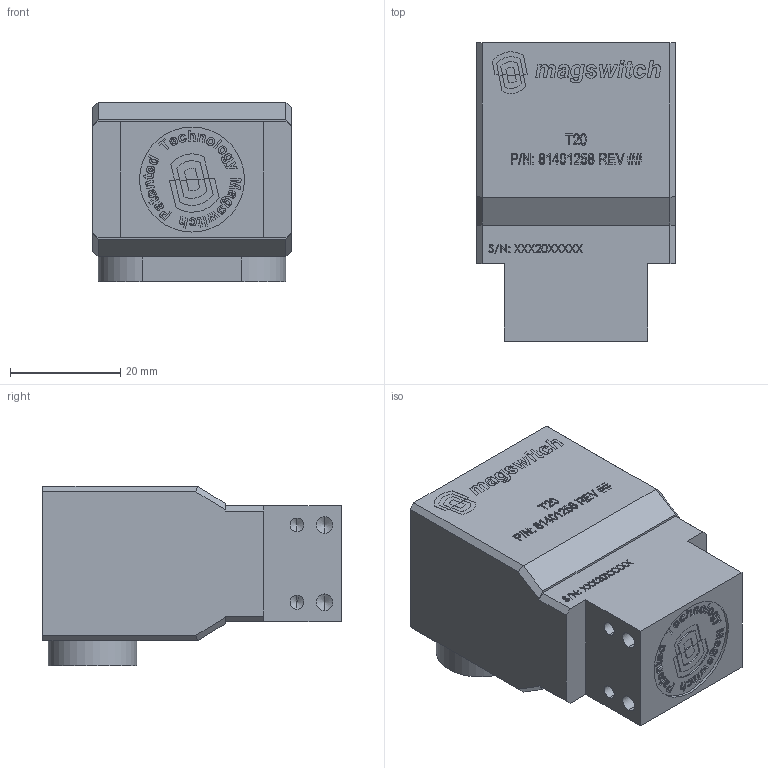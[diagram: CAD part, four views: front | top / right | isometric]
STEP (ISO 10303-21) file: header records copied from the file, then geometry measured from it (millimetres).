
FILE_DESCRIPTION (( 'STEP AP214' ), '1' );
FILE_NAME ('81001258_p.STEP', '2019-05-20T21:50:31', ( '' ), ( '' ), 'SwSTEP 2.0', 'SolidWorks 2018', '' );
FILE_SCHEMA (( 'AUTOMOTIVE_DESIGN' ));
Length unit declared in the file: millimetre
Products named in the file (1): 81001258_p
Bounding box: 36 x 54 x 32.5 mm (x, y, z)
Volume: 45689 mm3; surface area: 9917.4 mm2
Topology: 1 solids, 2 shells, 1376 faces, 3703 edges, 2447 vertices
Faces by surface type: plane 821, bspline 460, cylinder 67, cone 26, torus 2
Entity records: 74019 total; most frequent: CARTESIAN_POINT 27905, ORIENTED_EDGE 7358, DIRECTION 4726, EDGE_CURVE 3679, LINE 2610, VECTOR 2610, VERTEX_POINT 2447, EDGE_LOOP 1518
